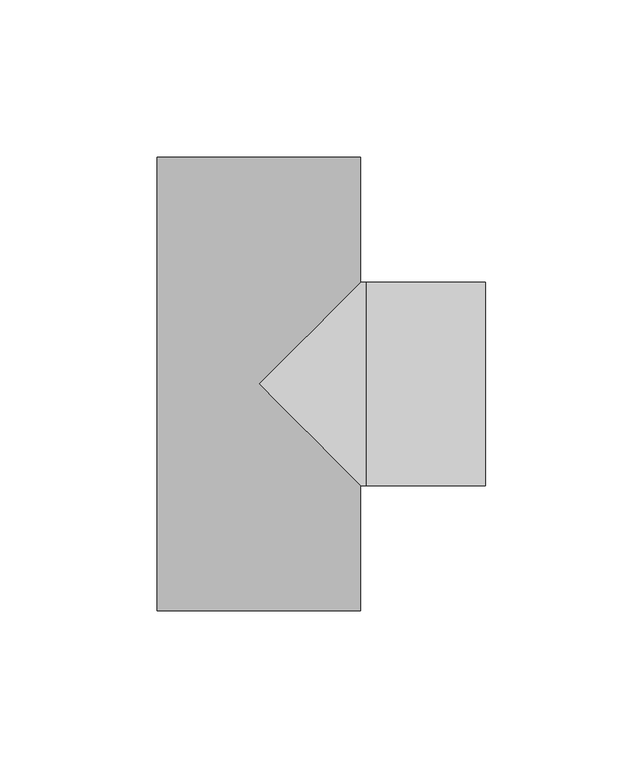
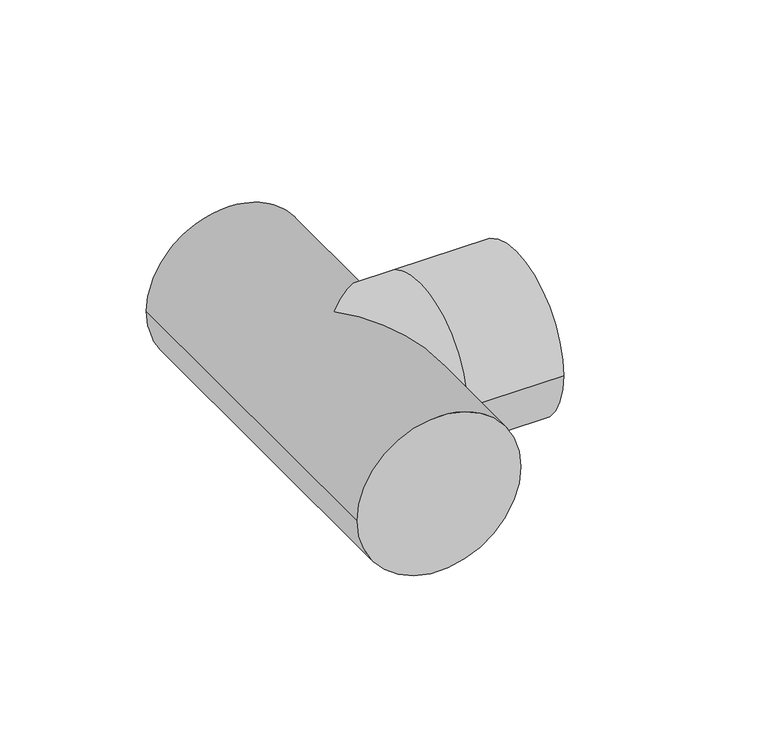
"""IFC4 building model written with IfcOpenShell, lengths in millimetres: pipe fitting geometry, 01051003 : Tê a 90º."""

from ifc_helpers import new_model, si_unit, frame, origin, place, context, project, spatial, circle_curve, ellipse_curve, source, transform, mapped, element, save
from ifc_brep_helpers import plane_surface, cylinder_surface, advanced_brep


def pipe_fitting_f1d7b85c(model_context):
    return source(origin(), model_context, "Body", "AdvancedBrep", [
        advanced_brep(
        [(-32.3, 72.0, 0.0), (32.3, 72.0, 0.0), (-32.3, -72.0, 0.0), (32.3, -72.0, 0.0), (32.3, -32.3, 0.0), (0.0, 0.0, 32.3), (32.3, 32.3, 0.0), (0.0, 0.0, -32.3), (72.0, 32.3, 0.0), (72.0, -32.3, 0.0), (34.0, -32.3, 0.0), (34.0, 32.3, 0.0)],
        [
            (0, 1, circle_curve(frame((0.0, 72.0, 0.0), z_axis=(0.0, 1.0, 0.0), x_axis=(1.0, 0.0, 0.0)), 32.3)),
            (1, 0, circle_curve(frame((0.0, 72.0, 0.0), z_axis=(0.0, 1.0, 0.0), x_axis=(1.0, 0.0, 0.0)), 32.3)),
            (2, 3, circle_curve(frame((0.0, -72.0, 0.0), z_axis=(0.0, -1.0, 0.0), x_axis=(1.0, 0.0, 0.0)), 32.3)),
            (3, 2, circle_curve(frame((0.0, -72.0, 0.0), z_axis=(0.0, -1.0, 0.0), x_axis=(1.0, 0.0, 0.0)), 32.3)),
            (0, 2),
            (3, 4),
            (4, 5, ellipse_curve(frame((0.0, 0.0, 0.0), z_axis=(-0.7071067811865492, -0.7071067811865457, 0.0), x_axis=(-0.7071067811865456, 0.7071067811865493, 0.0)), 45.6790981, 32.3)),
            (5, 6, ellipse_curve(frame((0.0, 0.0, 0.0), z_axis=(-0.7071067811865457, 0.7071067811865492, 0.0), x_axis=(0.7071067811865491, 0.7071067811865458, 0.0)), 45.6790981, 32.3)),
            (6, 1),
            (6, 7, ellipse_curve(frame((0.0, 0.0, 0.0), z_axis=(-0.7071067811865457, 0.7071067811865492, 0.0), x_axis=(0.7071067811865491, 0.7071067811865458, 0.0)), 45.6790981, 32.3)),
            (7, 4, ellipse_curve(frame((0.0, 0.0, 0.0), z_axis=(-0.7071067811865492, -0.7071067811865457, 0.0), x_axis=(-0.7071067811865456, 0.7071067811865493, 0.0)), 45.6790981, 32.3)),
            (8, 9, circle_curve(frame((72.0, 0.0, 0.0), z_axis=(1.0, 0.0, 0.0), x_axis=(0.0, -1.0, 0.0)), 32.3)),
            (9, 8, circle_curve(frame((72.0, 0.0, 0.0), z_axis=(1.0, 0.0, 0.0), x_axis=(0.0, -1.0, 0.0)), 32.3)),
            (10, 11, circle_curve(frame((34.0, 0.0, 0.0), z_axis=(-1.0, 0.0, 0.0), x_axis=(0.0, -1.0, 0.0)), 32.3)),
            (11, 6),
            (4, 10),
            (11, 10, circle_curve(frame((34.0, 0.0, 0.0), z_axis=(-1.0, 0.0, 0.0), x_axis=(0.0, -1.0, 0.0)), 32.3)),
            (8, 11),
            (10, 9),
        ],
        [
            plane_surface(frame((0.0, 72.0, 0.0), z_axis=(0.0, 1.0, 0.0), x_axis=(0.0, 0.0, 1.0))),
            plane_surface(frame((0.0, -72.0, 0.0), z_axis=(0.0, -1.0, 0.0), x_axis=(0.0, 0.0, 1.0))),
            cylinder_surface(frame((0.0, 72.0, 0.0), z_axis=(0.0, 1.0, 0.0), x_axis=(1.0, 0.0, 0.0)), 32.3),
            plane_surface(frame((72.0, 0.0, 0.0), z_axis=(1.0, 0.0, 0.0), x_axis=(0.0, 0.0, 1.0))),
            cylinder_surface(frame((34.0, 0.0, 0.0), z_axis=(1.0, 0.0, 0.0), x_axis=(0.0, -1.0, 0.0)), 32.3),
            cylinder_surface(frame((72.0, 0.0, 0.0), z_axis=(1.0, 0.0, 0.0), x_axis=(0.0, -1.0, 0.0)), 32.3),
        ],
        [
            (0, [[1, 2]]),
            (1, [[3, 4]]),
            (2, [[-1, 5, -4, 6, 7, 8, 9]]),
            (2, [[-2, -9, 10, 11, -6, -3, -5]]),
            (3, [[12, 13]]),
            (4, [[14, 15, -8, -7, 16]]),
            (4, [[17, -16, -11, -10, -15]]),
            (5, [[-12, 18, -14, 19]]),
            (5, [[-13, -19, -17, -18]]),
        ],
    ),
    ])


if __name__ == "__main__":
    model = new_model("IFC4")
    model_context = context("Model", 3, world=origin())
    ifc_project = project(units=[si_unit("LENGTHUNIT", "METRE", prefix="MILLI")], contexts=[model_context])
    site = spatial("IfcSite", under=ifc_project)
    building = spatial("IfcBuilding", under=site)
    placement = place(None, origin())
    pipe_fitting_shape = pipe_fitting_f1d7b85c(model_context)
    element("IfcPipeFitting", 1, ObjectType="01051003 : Tê a 90º", at=placement, inside=building, context=model_context, shape_type="MappedRepresentation", body=[
        mapped(pipe_fitting_shape, transform((0.0, 0.0, 0.0), x_axis=(1.0, 0.0, 0.0), y_axis=(0.0, 1.0, 0.0), z_axis=(0.0, 0.0, 1.0))),
    ])
    save(model, "model.ifc")
